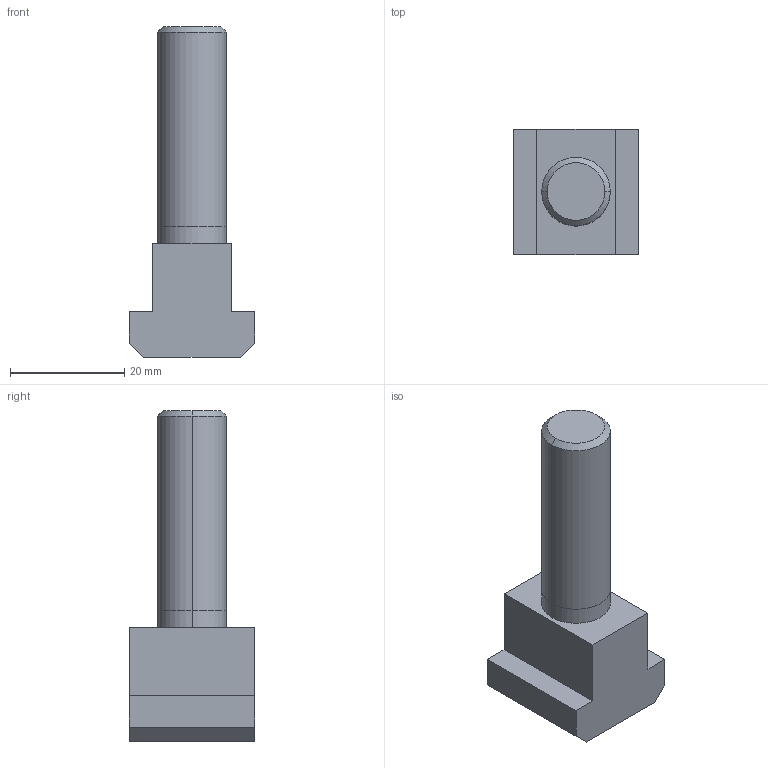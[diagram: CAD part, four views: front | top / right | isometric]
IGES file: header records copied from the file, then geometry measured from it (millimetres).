
Start section: 3D InterOp IGES (v. 2018 1.0.2), Spatial Corp. Copyright (c) 1999-2017.
Global section: file name: HWS_9011_12_14_50.igs; native system: Spatial Corp.; preprocessor: 3D InterOp GENERIC/IGES 3.0; author: Noname; organization: Noname; date: 20191010.134652; units: metre
Bounding box: 22 x 22 x 58 mm (x, y, z)
Surface area: 3862.4 mm2 (no closed solid volume)
Topology: 0 solids, 0 shells, 20 faces, 92 edges, 92 vertices
Faces by surface type: extrusion 14, revolution 6
